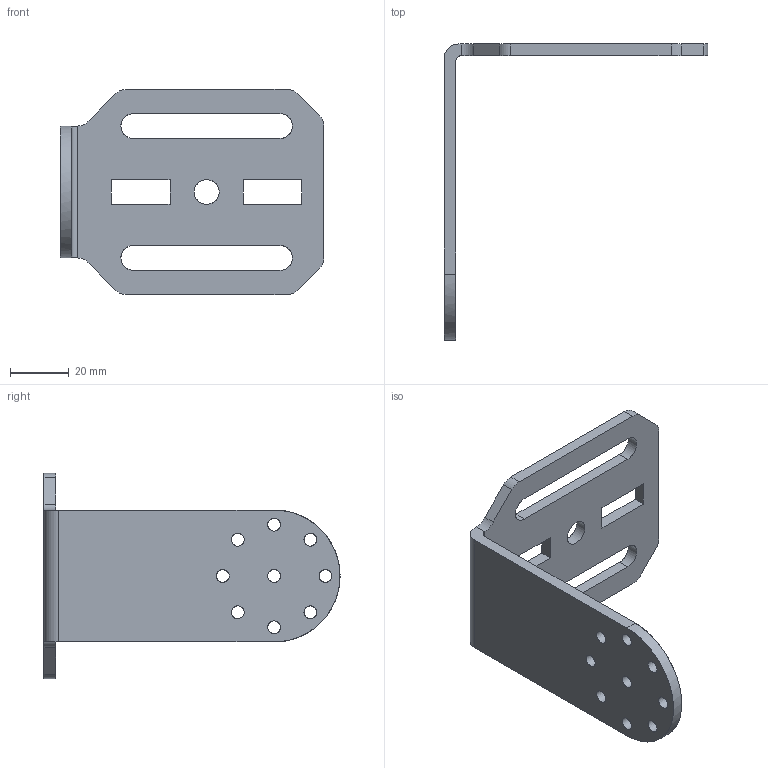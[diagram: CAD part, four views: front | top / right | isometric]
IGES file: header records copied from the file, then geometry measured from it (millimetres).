
Global section: file name: C:\Users\Acarrieri\OneDrive - Datalogic S.p.a\Desktop\PDS\00-M320\5MP\3D\DSD\DSD-1082_ST-1032\MP031627_03_IGS_DSD-1082.igs; native system: NX V1926; preprocessor: SIEMENS PLM Software NX 1946; date: 20211102.142430; units: millimetre
Bounding box: 90 x 101 x 70 mm (x, y, z)
Surface area: 20757.2 mm2 (no closed solid volume)
Topology: 0 solids, 0 shells, 50 faces, 474 edges, 462 vertices
Faces by surface type: bspline 50
